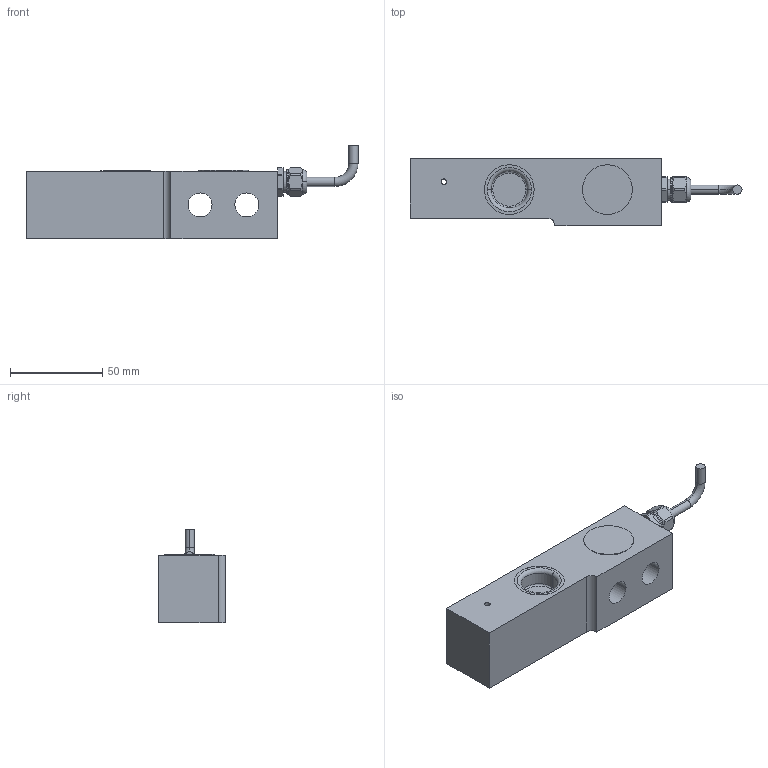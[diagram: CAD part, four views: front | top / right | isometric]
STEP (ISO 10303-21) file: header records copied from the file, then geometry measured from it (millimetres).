
FILE_DESCRIPTION((''),'2;1');
FILE_NAME('0745A-2200KG_ASM_2_SW0001','2014-07-28T',('wang-379'),(''),'PRO/ENGINEER BY PARAMETRIC TECHNOLOGY CORPORATION, 2013320','PRO/ENGINEER BY PARAMETRIC TECHNOLOGY CORPORATION, 2013320','');
FILE_SCHEMA(('CONFIG_CONTROL_DESIGN'));
Length unit declared in the file: millimetre
Products named in the file (1): 0745A-2200KG_ASM_2_SW0001
Bounding box: 180.39 x 36.58 x 50.95 mm (x, y, z)
Volume: 152656.7 mm3; surface area: 29005.5 mm2
Topology: 1 solids, 1 shells, 114 faces, 274 edges, 172 vertices
Faces by surface type: cylinder 41, plane 39, torus 18, cone 16
Entity records: 3636 total; most frequent: CARTESIAN_POINT 850, DIRECTION 616, ORIENTED_EDGE 548, EDGE_CURVE 274, AXIS2_PLACEMENT_3D 252, VERTEX_POINT 172, CIRCLE 138, EDGE_LOOP 132
